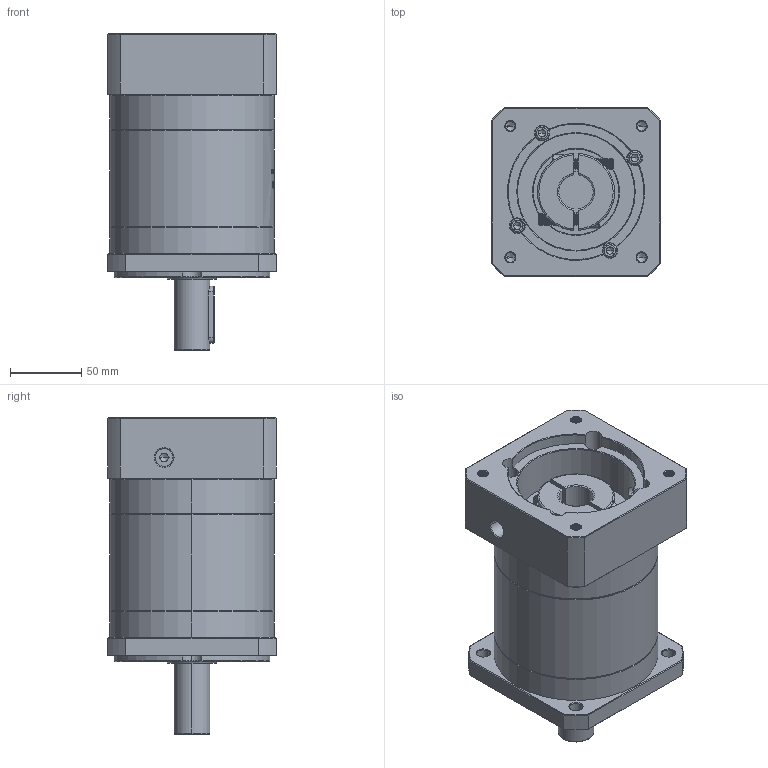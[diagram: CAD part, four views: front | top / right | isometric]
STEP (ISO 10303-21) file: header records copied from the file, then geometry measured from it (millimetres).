
FILE_DESCRIPTION (( 'STEP AP214' ), '1' );
FILE_NAME ('ZF120A-D25-L2-24-95-130-M8.step', '2023-03-07T09:30:18', ( '' ), ( '' ), 'SwSTEP 2.0', 'SolidWorks 2016', '' );
FILE_SCHEMA (( 'AUTOMOTIVE_DESIGN' ));
Length unit declared in the file: millimetre
Products named in the file (1): ZF120A-D25-L2-24-95-130-M8
Bounding box: 118 x 118 x 222 mm (x, y, z)
Volume: 1755515.1 mm3; surface area: 175658.8 mm2
Topology: 6 solids, 6 shells, 1950 faces, 5114 edges, 3258 vertices
Faces by surface type: plane 857, cylinder 425, cone 327, bspline 321, torus 20
Entity records: 107120 total; most frequent: CARTESIAN_POINT 41417, ORIENTED_EDGE 10168, DIRECTION 7891, EDGE_CURVE 5084, VERTEX_POINT 3258, LINE 2749, VECTOR 2749, AXIS2_PLACEMENT_3D 2571
